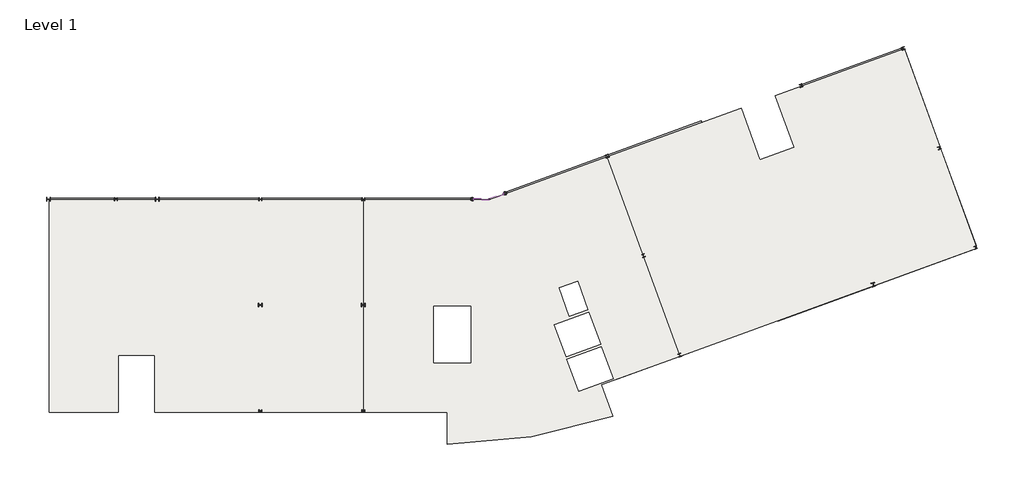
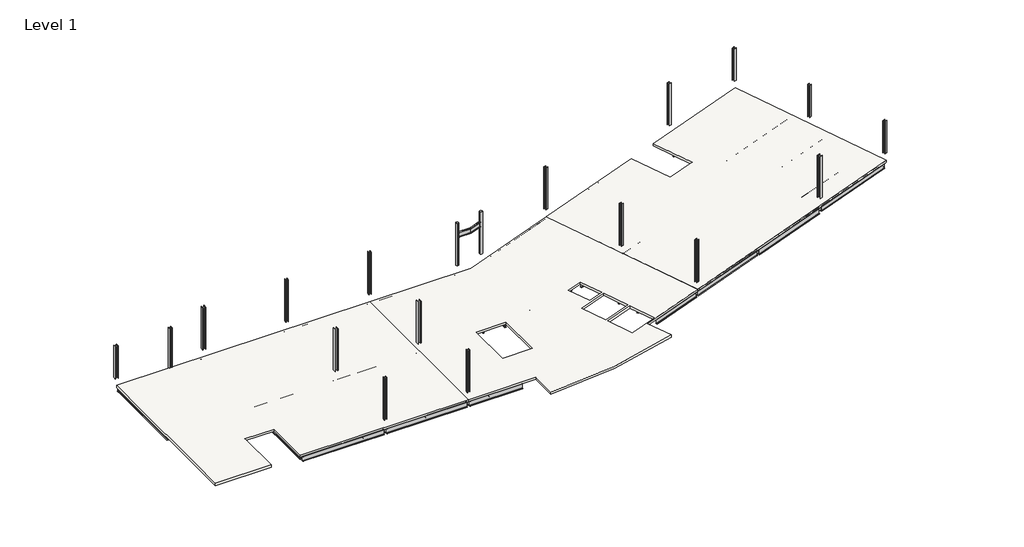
# One storey: 87 beams, 19 columns, 1 slab.
"""IFC4 building model written with IfcOpenShell, lengths in millimetres."""

from ifc_helpers import new_model, si_unit, point, frame, frame_2d, origin, place, context, project, spatial, polyline, circle_curve, trimmed, segment, composite_curve, outline, extrude, transform, mapped, element, save
from components import beam_e63ae445, ub_universal_beams_d270934e, ub_universal_beams_e915e172, ub_universal_beams_a95554c7, ub_universal_beams_b6dbdd7a, ub_universal_beams_9ada3ad7, ub_universal_beams_885cc86f, ub_universal_beams_c84566a2, ub_universal_beams_4841b023, ub_universal_beams_bb2d3bd6, ub_universal_beams_20791346, ub_universal_beams_18d3feb0, ub_universal_beams_59459dd6, ub_universal_beams_568b5c51, ub_universal_beams_e00400c9, ub_universal_beams_14baedf7, ub_universal_beams_54dd217e, ub_universal_beams_f823aa85, ub_universal_beams_cdbcbb51, ub_universal_beams_2db27d90, ub_universal_beams_feb0265b, ub_universal_beams_78ad538f, ub_universal_beams_801fcbf0, ub_universal_beams_c91190e6, ub_universal_beams_7192e0ee, ub_universal_beams_e0a47d06, ub_universal_beams_f5dc209c, ub_universal_beams_f862a4b8, ub_universal_beams_0fc11a2d, ub_universal_beams_656765b2, ub_universal_beams_21f5ef47, ub_universal_beams_7b4bcd9a, ub_universal_beams_8d1efc97, ub_universal_beams_2b7a043a, ub_universal_beams_8d2b0bf5, ub_universal_beams_37de3949, ub_universal_beams_43212cfb, ub_universal_beams_777f85ab, ub_universal_beams_8ec85ef7, ub_universal_beams_16a75a32, ub_universal_beams_b9a7bbe5, ub_universal_beams_60794b88, ub_universal_beams_0c249d50, column_fd5da61b, uc_universal_columns_column_9b15f2e4, uc_universal_columns_column_e63b660d, uc_universal_columns_column_cef70da3, uc_universal_columns_column_7956e9f7

model = new_model("IFC4")

# Units and contexts
model_context = context("Model", 3, world=origin())
ifc_project = project(units=[si_unit("LENGTHUNIT", "METRE", prefix="MILLI")], contexts=[model_context])

# Site, building, storey
site = spatial("IfcSite", under=ifc_project)
building = spatial("IfcBuilding", under=site)
storey = spatial("IfcBuildingStorey", under=building, Name="Level 1", Elevation=3695.0)

# Beams
placement = place(None, origin())
beam_shape = beam_e63ae445(model_context)
element("IfcBeam", 1, ObjectType="Cranked Beam B2 : Cranked Beam B1", at=placement, inside=storey, context=model_context, shape_type="MappedRepresentation", body=[
    mapped(beam_shape, transform((0.0, 0.0, 0.0), x_axis=(1.0, 0.0, 0.0), y_axis=(0.0, 1.0, 0.0), z_axis=(0.0, 0.0, 1.0))),
])
ub_universal_beams_shape = ub_universal_beams_d270934e(model_context)
element("IfcBeam", 2, ObjectType="UB-Universal Beams : UB 18\" x 6\" x 2 1/2\"", at=placement, inside=storey, context=model_context, shape_type="MappedRepresentation", body=[
    mapped(ub_universal_beams_shape, transform((4212.2000022, 15363.2000005, 3466.0), x_axis=(1.0, 0.0, 0.0), y_axis=(0.0, 1.0, 0.0), z_axis=(0.0, 0.0, 1.0))),
])
ub_universal_beams_2_shape = ub_universal_beams_e915e172(model_context)
element("IfcBeam", 3, ObjectType="UB-Universal Beams : UB 18\" x 6\" x 2 1/2\"", at=placement, inside=storey, context=model_context, shape_type="MappedRepresentation", body=[
    mapped(ub_universal_beams_2_shape, transform((11712.2000023, 15363.2000005, 3466.0), x_axis=(1.0, 0.0, 0.0), y_axis=(0.0, 1.0, 0.0), z_axis=(0.0, 0.0, 1.0))),
])
ub_universal_beams_3_shape = ub_universal_beams_a95554c7(model_context)
element("IfcBeam", 4, ObjectType="UB-Universal Beams : UB 18\" x 6\" x 2 1/2\"", at=placement, inside=storey, context=model_context, shape_type="MappedRepresentation", body=[
    mapped(ub_universal_beams_3_shape, transform((19012.2000023, 15363.2000005, 3466.0), x_axis=(1.0, 0.0, 0.0), y_axis=(0.0, 1.0, 0.0), z_axis=(0.0, 0.0, 1.0))),
])
element("IfcBeam", 5, ObjectType="UB-Universal Beams : UB 18\" x 6\" x 2 1/2\"", at=placement, inside=storey, context=model_context, shape_type="MappedRepresentation", body=[
    mapped(ub_universal_beams_3_shape, transform((19012.2000022, 363.2000005, 3466.0), x_axis=(1.0, 0.0, 0.0), y_axis=(0.0, 1.0, 0.0), z_axis=(0.0, 0.0, 1.0))),
])
ub_universal_beams_4_shape = ub_universal_beams_b6dbdd7a(model_context)
element("IfcBeam", 6, ObjectType="UB-Universal Beams : UB 18\" x 6\" x 2 1/2\"", at=placement, inside=storey, context=model_context, shape_type="MappedRepresentation", body=[
    mapped(ub_universal_beams_4_shape, transform((26512.2000022, 15363.2000005, 3466.0), x_axis=(1.0, 0.0, 0.0), y_axis=(0.0, 1.0, 0.0), z_axis=(0.0, 0.0, 1.0))),
])
ub_universal_beams_5_shape = ub_universal_beams_9ada3ad7(model_context)
element("IfcBeam", 7, ObjectType="UB-Universal Beams : UB 18\" x 6\" x 2 1/2\"", at=placement, inside=storey, context=model_context, shape_type="MappedRepresentation", body=[
    mapped(ub_universal_beams_5_shape, transform((11674.7000023, 7863.2000004, 3466.0), x_axis=(-1.0, 0.0, 0.0), y_axis=(0.0, -1.0, 0.0), z_axis=(0.0, 0.0, 1.0))),
])
ub_universal_beams_6_shape = ub_universal_beams_885cc86f(model_context)
element("IfcBeam", 8, ObjectType="UB-Universal Beams : UB 18\" x 6\" x 2 1/2\"", at=placement, inside=storey, context=model_context, shape_type="MappedRepresentation", body=[
    mapped(ub_universal_beams_6_shape, transform((11674.7000023, 363.2000005, 3466.0), x_axis=(-1.0, 0.0, 0.0), y_axis=(0.0, -1.0, 0.0), z_axis=(0.0, 0.0, 1.0))),
])
ub_universal_beams_7_shape = ub_universal_beams_c84566a2(model_context)
element("IfcBeam", 9, ObjectType="UB-Universal Beams : UB 18\" x 6\" x 2 1/2\"", at=placement, inside=storey, context=model_context, shape_type="MappedRepresentation", body=[
    mapped(ub_universal_beams_7_shape, transform((19012.2000023, 7863.2000004, 3466.0), x_axis=(1.0, 0.0, 0.0), y_axis=(0.0, 1.0, 0.0), z_axis=(0.0, 0.0, 1.0))),
])
ub_universal_beams_8_shape = ub_universal_beams_4841b023(model_context)
element("IfcBeam", 10, ObjectType="UB-Universal Beams : UB 18\" x 6\" x 2 1/2\"", at=placement, inside=storey, context=model_context, shape_type="MappedRepresentation", body=[
    mapped(ub_universal_beams_8_shape, transform((25112.2000025, 7863.2000004, 3466.0), x_axis=(1.0, 0.0, 0.0), y_axis=(0.0, 1.0, 0.0), z_axis=(0.0, 0.0, 1.0))),
])
ub_universal_beams_9_shape = ub_universal_beams_bb2d3bd6(model_context)
element("IfcBeam", 11, ObjectType="UB-Universal Beams : UB 18\" x 6\" x 2 1/2\"", at=placement, inside=storey, context=model_context, shape_type="MappedRepresentation", body=[
    mapped(ub_universal_beams_9_shape, transform((614.1000027, 11575.7000004, 3466.0), x_axis=(0.0, 1.0, 0.0), y_axis=(-1.0, 0.0, 0.0), z_axis=(0.0, 0.0, 1.0))),
])
ub_universal_beams_10_shape = ub_universal_beams_20791346(model_context)
element("IfcBeam", 12, ObjectType="UB-Universal Beams : UB 18\" x 6\" x 2 1/2\"", at=placement, inside=storey, context=model_context, shape_type="MappedRepresentation", body=[
    mapped(ub_universal_beams_10_shape, transform((25112.2000025, 363.2000005, 3466.0), x_axis=(1.0, 0.0, 0.0), y_axis=(0.0, 1.0, 0.0), z_axis=(0.0, 0.0, 1.0))),
])
ub_universal_beams_11_shape = ub_universal_beams_18d3feb0(model_context)
element("IfcBeam", 13, ObjectType="UB-Universal Beams : UB 18\" x 6\" x 2 1/2\"", at=placement, inside=storey, context=model_context, shape_type="MappedRepresentation", body=[
    mapped(ub_universal_beams_11_shape, transform((8062.2000022, 11613.2000005, 3466.0), x_axis=(0.0, 1.0, 0.0), y_axis=(-1.0, 0.0, 0.0), z_axis=(0.0, 0.0, 1.0))),
])
ub_universal_beams_12_shape = ub_universal_beams_59459dd6(model_context)
element("IfcBeam", 14, ObjectType="UB-Universal Beams : UB 18\" x 6\" x 2 1/2\"", at=placement, inside=storey, context=model_context, shape_type="MappedRepresentation", body=[
    mapped(ub_universal_beams_12_shape, transform((15362.2000023, 4113.2000005, 3466.0), x_axis=(0.0, 1.0, 0.0), y_axis=(-1.0, 0.0, 0.0), z_axis=(0.0, 0.0, 1.0))),
])
element("IfcBeam", 15, ObjectType="UB-Universal Beams : UB 18\" x 6\" x 2 1/2\"", at=placement, inside=storey, context=model_context, shape_type="MappedRepresentation", body=[
    mapped(ub_universal_beams_12_shape, transform((22662.2000022, 4113.2000005, 3466.0), x_axis=(0.0, 1.0, 0.0), y_axis=(-1.0, 0.0, 0.0), z_axis=(0.0, 0.0, 1.0))),
])
ub_universal_beams_13_shape = ub_universal_beams_568b5c51(model_context)
element("IfcBeam", 16, ObjectType="UB-Universal Beams : UB 18\" x 6\" x 2 1/2\"", at=placement, inside=storey, context=model_context, shape_type="MappedRepresentation", body=[
    mapped(ub_universal_beams_13_shape, transform((15362.2000023, 11613.2000005, 3466.0), x_axis=(0.0, 1.0, 0.0), y_axis=(-1.0, 0.0, 0.0), z_axis=(0.0, 0.0, 1.0))),
])
element("IfcBeam", 17, ObjectType="UB-Universal Beams : UB 18\" x 6\" x 2 1/2\"", at=placement, inside=storey, context=model_context, shape_type="MappedRepresentation", body=[
    mapped(ub_universal_beams_13_shape, transform((22662.2000022, 11613.2000005, 3466.0), x_axis=(0.0, 1.0, 0.0), y_axis=(-1.0, 0.0, 0.0), z_axis=(0.0, 0.0, 1.0))),
])
ub_universal_beams_14_shape = ub_universal_beams_e00400c9(model_context)
element("IfcBeam", 18, ObjectType="UB-Universal Beams : UB 18\" x 6\" x 2 1/2\"", at=placement, inside=storey, context=model_context, shape_type="MappedRepresentation", body=[
    mapped(ub_universal_beams_14_shape, transform((30362.2000022, 11613.2000005, 3466.0), x_axis=(0.0, 1.0, 0.0), y_axis=(-1.0, 0.0, 0.0), z_axis=(0.0, 0.0, 1.0))),
])
ub_universal_beams_15_shape = ub_universal_beams_14baedf7(model_context)
element("IfcBeam", 19, ObjectType="UB-Universal Beams : UB 12\" x 5\" x 1 1/2\"", at=placement, inside=storey, context=model_context, shape_type="MappedRepresentation", body=[
    mapped(ub_universal_beams_15_shape, transform((2457.6125027, 11575.7000004, 3542.8), x_axis=(0.0, 1.0, 0.0), y_axis=(-1.0, 0.0, 0.0), z_axis=(0.0, 0.0, 1.0))),
])
element("IfcBeam", 20, ObjectType="UB-Universal Beams : UB 12\" x 5\" x 1 1/2\"", at=placement, inside=storey, context=model_context, shape_type="MappedRepresentation", body=[
    mapped(ub_universal_beams_15_shape, transform((4301.1250026, 11575.7000004, 3542.8), x_axis=(0.0, 1.0, 0.0), y_axis=(-1.0, 0.0, 0.0), z_axis=(0.0, 0.0, 1.0))),
])
element("IfcBeam", 21, ObjectType="UB-Universal Beams : UB 12\" x 5\" x 1 1/2\"", at=placement, inside=storey, context=model_context, shape_type="MappedRepresentation", body=[
    mapped(ub_universal_beams_15_shape, transform((6144.6375025, 11575.7000005, 3542.8), x_axis=(0.0, 1.0, 0.0), y_axis=(-1.0, 0.0, 0.0), z_axis=(0.0, 0.0, 1.0))),
])
ub_universal_beams_16_shape = ub_universal_beams_54dd217e(model_context)
element("IfcBeam", 22, ObjectType="UB-Universal Beams : UB 12\" x 5\" x 1 1/2\"", at=placement, inside=storey, context=model_context, shape_type="MappedRepresentation", body=[
    mapped(ub_universal_beams_16_shape, transform((7988.1500025, 7863.2000005, 3542.8), x_axis=(0.0, 1.0, 0.0), y_axis=(-1.0, 0.0, 0.0), z_axis=(0.0, 0.0, 1.0))),
])
ub_universal_beams_17_shape = ub_universal_beams_f823aa85(model_context)
element("IfcBeam", 23, ObjectType="UB-Universal Beams : UB 12\" x 5\" x 1 1/2\"", at=placement, inside=storey, context=model_context, shape_type="MappedRepresentation", body=[
    mapped(ub_universal_beams_17_shape, transform((9831.6625024, 4113.2000005, 3542.8), x_axis=(0.0, 1.0, 0.0), y_axis=(-1.0, 0.0, 0.0), z_axis=(0.0, 0.0, 1.0))),
])
element("IfcBeam", 24, ObjectType="UB-Universal Beams : UB 12\" x 5\" x 1 1/2\"", at=placement, inside=storey, context=model_context, shape_type="MappedRepresentation", body=[
    mapped(ub_universal_beams_17_shape, transform((11675.1750024, 4113.2000005, 3542.8), x_axis=(0.0, 1.0, 0.0), y_axis=(-1.0, 0.0, 0.0), z_axis=(0.0, 0.0, 1.0))),
])
element("IfcBeam", 25, ObjectType="UB-Universal Beams : UB 12\" x 5\" x 1 1/2\"", at=placement, inside=storey, context=model_context, shape_type="MappedRepresentation", body=[
    mapped(ub_universal_beams_17_shape, transform((13518.6875023, 4113.2000005, 3542.8), x_axis=(0.0, 1.0, 0.0), y_axis=(-1.0, 0.0, 0.0), z_axis=(0.0, 0.0, 1.0))),
])
element("IfcBeam", 26, ObjectType="UB-Universal Beams : UB 12\" x 5\" x 1 1/2\"", at=placement, inside=storey, context=model_context, shape_type="MappedRepresentation", body=[
    mapped(ub_universal_beams_17_shape, transform((9887.2000022, 11613.2000005, 3542.8), x_axis=(0.0, 1.0, 0.0), y_axis=(-1.0, 0.0, 0.0), z_axis=(0.0, 0.0, 1.0))),
])
element("IfcBeam", 27, ObjectType="UB-Universal Beams : UB 12\" x 5\" x 1 1/2\"", at=placement, inside=storey, context=model_context, shape_type="MappedRepresentation", body=[
    mapped(ub_universal_beams_17_shape, transform((11712.2000022, 11613.2000005, 3542.8), x_axis=(0.0, 1.0, 0.0), y_axis=(-1.0, 0.0, 0.0), z_axis=(0.0, 0.0, 1.0))),
])
element("IfcBeam", 28, ObjectType="UB-Universal Beams : UB 12\" x 5\" x 1 1/2\"", at=placement, inside=storey, context=model_context, shape_type="MappedRepresentation", body=[
    mapped(ub_universal_beams_17_shape, transform((13537.2000023, 11613.2000005, 3542.8), x_axis=(0.0, 1.0, 0.0), y_axis=(-1.0, 0.0, 0.0), z_axis=(0.0, 0.0, 1.0))),
])
element("IfcBeam", 29, ObjectType="UB-Universal Beams : UB 12\" x 5\" x 1 1/2\"", at=placement, inside=storey, context=model_context, shape_type="MappedRepresentation", body=[
    mapped(ub_universal_beams_17_shape, transform((17187.2000023, 11613.2000005, 3542.8), x_axis=(0.0, 1.0, 0.0), y_axis=(-1.0, 0.0, 0.0), z_axis=(0.0, 0.0, 1.0))),
])
element("IfcBeam", 30, ObjectType="UB-Universal Beams : UB 12\" x 5\" x 1 1/2\"", at=placement, inside=storey, context=model_context, shape_type="MappedRepresentation", body=[
    mapped(ub_universal_beams_17_shape, transform((19012.2000023, 11613.2000005, 3542.8), x_axis=(0.0, 1.0, 0.0), y_axis=(-1.0, 0.0, 0.0), z_axis=(0.0, 0.0, 1.0))),
])
element("IfcBeam", 31, ObjectType="UB-Universal Beams : UB 12\" x 5\" x 1 1/2\"", at=placement, inside=storey, context=model_context, shape_type="MappedRepresentation", body=[
    mapped(ub_universal_beams_17_shape, transform((20837.2000022, 11613.2000005, 3542.8), x_axis=(0.0, 1.0, 0.0), y_axis=(-1.0, 0.0, 0.0), z_axis=(0.0, 0.0, 1.0))),
])
element("IfcBeam", 32, ObjectType="UB-Universal Beams : UB 12\" x 5\" x 1 1/2\"", at=placement, inside=storey, context=model_context, shape_type="MappedRepresentation", body=[
    mapped(ub_universal_beams_17_shape, transform((24587.2000022, 11613.2000005, 3542.8), x_axis=(0.0, 1.0, 0.0), y_axis=(-1.0, 0.0, 0.0), z_axis=(0.0, 0.0, 1.0))),
])
element("IfcBeam", 33, ObjectType="UB-Universal Beams : UB 12\" x 5\" x 1 1/2\"", at=placement, inside=storey, context=model_context, shape_type="MappedRepresentation", body=[
    mapped(ub_universal_beams_17_shape, transform((26512.2000022, 11613.2000005, 3542.8), x_axis=(0.0, 1.0, 0.0), y_axis=(-1.0, 0.0, 0.0), z_axis=(0.0, 0.0, 1.0))),
])
element("IfcBeam", 34, ObjectType="UB-Universal Beams : UB 12\" x 5\" x 1 1/2\"", at=placement, inside=storey, context=model_context, shape_type="MappedRepresentation", body=[
    mapped(ub_universal_beams_17_shape, transform((17187.2000022, 4113.2000005, 3542.8), x_axis=(0.0, 1.0, 0.0), y_axis=(-1.0, 0.0, 0.0), z_axis=(0.0, 0.0, 1.0))),
])
element("IfcBeam", 35, ObjectType="UB-Universal Beams : UB 12\" x 5\" x 1 1/2\"", at=placement, inside=storey, context=model_context, shape_type="MappedRepresentation", body=[
    mapped(ub_universal_beams_17_shape, transform((19012.2000022, 4113.2000005, 3542.8), x_axis=(0.0, 1.0, 0.0), y_axis=(-1.0, 0.0, 0.0), z_axis=(0.0, 0.0, 1.0))),
])
element("IfcBeam", 36, ObjectType="UB-Universal Beams : UB 12\" x 5\" x 1 1/2\"", at=placement, inside=storey, context=model_context, shape_type="MappedRepresentation", body=[
    mapped(ub_universal_beams_17_shape, transform((20837.2000022, 4113.2000005, 3542.8), x_axis=(0.0, 1.0, 0.0), y_axis=(-1.0, 0.0, 0.0), z_axis=(0.0, 0.0, 1.0))),
])
element("IfcBeam", 37, ObjectType="UB-Universal Beams : UB 12\" x 5\" x 1 1/2\"", at=placement, inside=storey, context=model_context, shape_type="MappedRepresentation", body=[
    mapped(ub_universal_beams_17_shape, transform((24587.2000022, 4113.2000004, 3542.8), x_axis=(0.0, 1.0, 0.0), y_axis=(-1.0, 0.0, 0.0), z_axis=(0.0, 0.0, 1.0))),
])
element("IfcBeam", 38, ObjectType="UB-Universal Beams : UB 12\" x 5\" x 1 1/2\"", at=placement, inside=storey, context=model_context, shape_type="MappedRepresentation", body=[
    mapped(ub_universal_beams_17_shape, transform((26512.2000022, 4113.2000004, 3542.8), x_axis=(0.0, 1.0, 0.0), y_axis=(-1.0, 0.0, 0.0), z_axis=(0.0, 0.0, 1.0))),
])
element("IfcBeam", 39, ObjectType="UB-Universal Beams : UB 12\" x 5\" x 1 1/2\"", at=placement, inside=storey, context=model_context, shape_type="MappedRepresentation", body=[
    mapped(ub_universal_beams_17_shape, transform((39409.0148654, 14226.6858637, 3542.8), x_axis=(0.34202014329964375, -0.9396926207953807, 0.0), y_axis=(0.9396926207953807, 0.34202014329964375, 0.0), z_axis=(0.0, 0.0, 1.0))),
])
element("IfcBeam", 40, ObjectType="UB-Universal Beams : UB 12\" x 5\" x 1 1/2\"", at=placement, inside=storey, context=model_context, shape_type="MappedRepresentation", body=[
    mapped(ub_universal_beams_17_shape, transform((37600.1065704, 13568.2970878, 3542.8), x_axis=(0.34202014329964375, -0.9396926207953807, 0.0), y_axis=(0.9396926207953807, 0.34202014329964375, 0.0), z_axis=(0.0, 0.0, 1.0))),
])
element("IfcBeam", 41, ObjectType="UB-Universal Beams : UB 12\" x 5\" x 1 1/2\"", at=placement, inside=storey, context=model_context, shape_type="MappedRepresentation", body=[
    mapped(ub_universal_beams_17_shape, transform((42915.2429568, 15502.8485233, 3542.8), x_axis=(-0.3420201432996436, 0.9396926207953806, 0.0), y_axis=(-0.9396926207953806, -0.3420201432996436, 0.0), z_axis=(0.0, 0.0, 1.0))),
])
element("IfcBeam", 42, ObjectType="UB-Universal Beams : UB 12\" x 5\" x 1 1/2\"", at=placement, inside=storey, context=model_context, shape_type="MappedRepresentation", body=[
    mapped(ub_universal_beams_17_shape, transform((44612.5627531, 16120.6224071, 3542.8), x_axis=(-0.34202014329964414, 0.9396926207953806, 0.0), y_axis=(-0.9396926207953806, -0.34202014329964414, 0.0), z_axis=(0.0, 0.0, 1.0))),
])
element("IfcBeam", 43, ObjectType="UB-Universal Beams : UB 12\" x 5\" x 1 1/2\"", at=placement, inside=storey, context=model_context, shape_type="MappedRepresentation", body=[
    mapped(ub_universal_beams_17_shape, transform((46309.8825494, 16738.396291, 3542.8), x_axis=(-0.34202014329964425, 0.9396926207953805, 0.0), y_axis=(-0.9396926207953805, -0.34202014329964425, 0.0), z_axis=(0.0, 0.0, 1.0))),
])
ub_universal_beams_18_shape = ub_universal_beams_cdbcbb51(model_context)
element("IfcBeam", 44, ObjectType="UB-Universal Beams : UB 12\" x 5\" x 1 1/2\"", at=placement, inside=storey, context=model_context, shape_type="MappedRepresentation", body=[
    mapped(ub_universal_beams_18_shape, transform((28437.2000022, 11613.2000005, 3542.8), x_axis=(0.0, 1.0, 0.0), y_axis=(-1.0, 0.0, 0.0), z_axis=(0.0, 0.0, 1.0))),
])
ub_universal_beams_19_shape = ub_universal_beams_2db27d90(model_context)
element("IfcBeam", 45, ObjectType="UB-Universal Beams : UB 18\" x 6\" x 2 1/2\"", at=placement, inside=storey, context=model_context, shape_type="MappedRepresentation", body=[
    mapped(ub_universal_beams_19_shape, transform((33982.2899804, 12251.5195361, 3466.0), x_axis=(0.3420201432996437, -0.9396926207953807, 0.0), y_axis=(0.9396926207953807, 0.3420201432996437, 0.0), z_axis=(0.0, 0.0, 1.0))),
])
ub_universal_beams_20_shape = ub_universal_beams_feb0265b(model_context)
element("IfcBeam", 46, ObjectType="UB-Universal Beams : UB 18\" x 6\" x 2 1/2\"", at=placement, inside=storey, context=model_context, shape_type="MappedRepresentation", body=[
    mapped(ub_universal_beams_20_shape, transform((32191.7898055, 11821.5156209, 3466.0), x_axis=(0.173648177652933, -0.9848077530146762, 0.0), y_axis=(0.9848077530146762, 0.173648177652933, 0.0), z_axis=(0.0, 0.0, 1.0))),
])
ub_universal_beams_21_shape = ub_universal_beams_78ad538f(model_context)
element("IfcBeam", 47, ObjectType="UB-Universal Beams : UB 18\" x 6\" x 2 1/2\"", at=placement, inside=storey, context=model_context, shape_type="MappedRepresentation", body=[
    mapped(ub_universal_beams_21_shape, transform((31317.5755278, 11361.2273115, 3466.0), x_axis=(1.0, 0.0, 0.0), y_axis=(0.0, 1.0, 0.0), z_axis=(0.0, 0.0, 1.0))),
])
ub_universal_beams_22_shape = ub_universal_beams_801fcbf0(model_context)
element("IfcBeam", 48, ObjectType="UB-Universal Beams : UB 18\" x 6\" x 2 1/2\"", at=placement, inside=storey, context=model_context, shape_type="MappedRepresentation", body=[
    mapped(ub_universal_beams_22_shape, transform((33170.7103845, 11687.9849855, 3466.0), x_axis=(0.9396926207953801, 0.3420201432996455, 0.0), y_axis=(-0.3420201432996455, 0.9396926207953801, 0.0), z_axis=(0.0, 0.0, 1.0))),
])
ub_universal_beams_23_shape = ub_universal_beams_c91190e6(model_context)
element("IfcBeam", 49, ObjectType="UB-Universal Beams : UB 18\" x 6\" x 2 1/2\"", at=placement, inside=storey, context=model_context, shape_type="MappedRepresentation", body=[
    mapped(ub_universal_beams_23_shape, transform((36317.5310328, 17092.1444158, 3466.0), x_axis=(0.9396926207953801, 0.3420201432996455, 0.0), y_axis=(-0.3420201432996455, 0.9396926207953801, 0.0), z_axis=(0.0, 0.0, 1.0))),
])
ub_universal_beams_24_shape = ub_universal_beams_7192e0ee(model_context)
element("IfcBeam", 50, ObjectType="UB-Universal Beams : UB 18\" x 6\" x 2 1/2\"", at=placement, inside=storey, context=model_context, shape_type="MappedRepresentation", body=[
    mapped(ub_universal_beams_24_shape, transform((43329.9872158, 19644.4697351, 3466.0), x_axis=(0.9396926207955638, 0.3420201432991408, 0.0), y_axis=(-0.3420201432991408, 0.9396926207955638, 0.0), z_axis=(0.0, 0.0, 1.0))),
])
element("IfcBeam", 51, ObjectType="UB-Universal Beams : UB 18\" x 6\" x 2 1/2\"", at=placement, inside=storey, context=model_context, shape_type="MappedRepresentation", body=[
    mapped(ub_universal_beams_24_shape, transform((45895.1382905, 12596.7750792, 3466.0), x_axis=(0.9396926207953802, 0.34202014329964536, 0.0), y_axis=(-0.34202014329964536, 0.9396926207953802, 0.0), z_axis=(0.0, 0.0, 1.0))),
])
element("IfcBeam", 52, ObjectType="UB-Universal Beams : UB 18\" x 6\" x 2 1/2\"", at=placement, inside=storey, context=model_context, shape_type="MappedRepresentation", body=[
    mapped(ub_universal_beams_24_shape, transform((48460.2893652, 5549.0804232, 3466.0), x_axis=(0.9396926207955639, 0.3420201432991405, 0.0), y_axis=(-0.3420201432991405, 0.9396926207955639, 0.0), z_axis=(0.0, 0.0, 1.0))),
])
ub_universal_beams_25_shape = ub_universal_beams_e0a47d06(model_context)
element("IfcBeam", 53, ObjectType="UB-Universal Beams : UB 18\" x 6\" x 2 1/2\"", at=placement, inside=storey, context=model_context, shape_type="MappedRepresentation", body=[
    mapped(ub_universal_beams_25_shape, transform((40198.2517768, 10523.2779603, 3466.0), x_axis=(0.9396926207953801, 0.34202014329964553, 0.0), y_axis=(-0.34202014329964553, 0.9396926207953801, 0.0), z_axis=(0.0, 0.0, 1.0))),
])
ub_universal_beams_26_shape = ub_universal_beams_f5dc209c(model_context)
element("IfcBeam", 54, ObjectType="UB-Universal Beams : UB 18\" x 6\" x 2 1/2\"", at=placement, inside=storey, context=model_context, shape_type="MappedRepresentation", body=[
    mapped(ub_universal_beams_26_shape, transform((41217.9231605, 14885.0746394, 3466.0), x_axis=(-0.3420201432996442, 0.9396926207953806, 0.0), y_axis=(-0.9396926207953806, -0.3420201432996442, 0.0), z_axis=(0.0, 0.0, 1.0))),
])
element("IfcBeam", 55, ObjectType="UB-Universal Beams : UB 18\" x 6\" x 2 1/2\"", at=placement, inside=storey, context=model_context, shape_type="MappedRepresentation", body=[
    mapped(ub_universal_beams_26_shape, transform((43783.0742352, 7837.3799835, 3466.0), x_axis=(-0.3420201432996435, 0.939692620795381, 0.0), y_axis=(-0.939692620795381, -0.3420201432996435, 0.0), z_axis=(0.0, 0.0, 1.0))),
])
ub_universal_beams_27_shape = ub_universal_beams_f862a4b8(model_context)
element("IfcBeam", 56, ObjectType="UB-Universal Beams : UB 18\" x 6\" x 2 1/2\"", at=placement, inside=storey, context=model_context, shape_type="MappedRepresentation", body=[
    mapped(ub_universal_beams_27_shape, transform((42763.4028515, 3475.5833044, 3466.0), x_axis=(-0.9396926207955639, -0.34202014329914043, 0.0), y_axis=(0.34202014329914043, -0.9396926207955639, 0.0), z_axis=(0.0, 0.0, 1.0))),
])
ub_universal_beams_28_shape = ub_universal_beams_0fc11a2d(model_context)
element("IfcBeam", 57, ObjectType="UB-Universal Beams : UB 20 1/2\" x 8 1/2\" x 3 1/2\"", at=placement, inside=storey, context=model_context, shape_type="MappedRepresentation", body=[
    mapped(ub_universal_beams_28_shape, transform((55320.045497, 8045.8274693, 3430.85), x_axis=(0.9396926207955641, 0.3420201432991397, 0.0), y_axis=(-0.3420201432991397, 0.9396926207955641, 0.0), z_axis=(0.0, 0.0, 1.0))),
])
ub_universal_beams_29_shape = ub_universal_beams_656765b2(model_context)
element("IfcBeam", 58, ObjectType="UB-Universal Beams : UB 18\" x 6\" x 2 1/2\"", at=placement, inside=storey, context=model_context, shape_type="MappedRepresentation", body=[
    mapped(ub_universal_beams_29_shape, transform((62402.9786263, 10623.8042994, 3466.0), x_axis=(0.9396926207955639, 0.34202014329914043, 0.0), y_axis=(-0.34202014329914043, 0.9396926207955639, 0.0), z_axis=(0.0, 0.0, 1.0))),
])
element("IfcBeam", 59, ObjectType="UB-Universal Beams : UB 18\" x 6\" x 2 1/2\"", at=placement, inside=storey, context=model_context, shape_type="MappedRepresentation", body=[
    mapped(ub_universal_beams_26_shape, transform((64738.219679, 15464.4291791, 3466.0), x_axis=(-0.34202014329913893, 0.9396926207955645, 0.0), y_axis=(-0.9396926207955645, -0.34202014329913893, 0.0), z_axis=(0.0, 0.0, 1.0))),
])
element("IfcBeam", 60, ObjectType="UB-Universal Beams : UB 18\" x 6\" x 2 1/2\"", at=placement, inside=storey, context=model_context, shape_type="MappedRepresentation", body=[
    mapped(ub_universal_beams_26_shape, transform((62173.0686043, 22512.123835, 3466.0), x_axis=(-0.3420201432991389, 0.9396926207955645, 0.0), y_axis=(-0.9396926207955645, -0.3420201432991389, 0.0), z_axis=(0.0, 0.0, 1.0))),
])
ub_universal_beams_30_shape = ub_universal_beams_21f5ef47(model_context)
element("IfcBeam", 61, ObjectType="UB-Universal Beams : UB 18\" x 6\" x 2 1/2\"", at=placement, inside=storey, context=model_context, shape_type="MappedRepresentation", body=[
    mapped(ub_universal_beams_30_shape, transform((57272.6764768, 24719.1936113, 3466.0), x_axis=(-0.9396926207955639, -0.3420201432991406, 0.0), y_axis=(0.3420201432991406, -0.9396926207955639, 0.0), z_axis=(0.0, 0.0, 1.0))),
])
ub_universal_beams_31_shape = ub_universal_beams_7b4bcd9a(model_context)
element("IfcBeam", 62, ObjectType="UB-Universal Beams : UB 18\" x 6\" x 2 1/2\"", at=placement, inside=storey, context=model_context, shape_type="MappedRepresentation", body=[
    mapped(ub_universal_beams_31_shape, transform((54937.4354241, 19878.5687316, 3466.0), x_axis=(-0.3420201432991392, 0.9396926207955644, 0.0), y_axis=(-0.9396926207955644, -0.3420201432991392, 0.0), z_axis=(0.0, 0.0, 1.0))),
])
ub_universal_beams_32_shape = ub_universal_beams_8d1efc97(model_context)
element("IfcBeam", 63, ObjectType="UB-Universal Beams : UB 12\" x 5\" x 1 1/2\"", at=placement, inside=storey, context=model_context, shape_type="MappedRepresentation", body=[
    mapped(ub_universal_beams_32_shape, transform((35791.1982754, 12909.908312, 3542.8), x_axis=(0.3420201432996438, -0.9396926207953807, 0.0), y_axis=(0.9396926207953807, 0.3420201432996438, 0.0), z_axis=(0.0, 0.0, 1.0))),
])
ub_universal_beams_33_shape = ub_universal_beams_2b7a043a(model_context)
element("IfcBeam", 64, ObjectType="UB-Universal Beams : UB 12\" x 5\" x 1 1/2\"", at=placement, inside=storey, context=model_context, shape_type="MappedRepresentation", body=[
    mapped(ub_universal_beams_33_shape, transform((42122.1150828, 5237.5069684, 3542.8), x_axis=(-0.939692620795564, -0.3420201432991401, 0.0), y_axis=(0.3420201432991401, -0.939692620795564, 0.0), z_axis=(0.0, 0.0, 1.0))),
])
element("IfcBeam", 65, ObjectType="UB-Universal Beams : UB 12\" x 5\" x 1 1/2\"", at=placement, inside=storey, context=model_context, shape_type="MappedRepresentation", body=[
    mapped(ub_universal_beams_33_shape, transform((41480.8273141, 6999.4306323, 3542.8), x_axis=(-0.9396926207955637, -0.3420201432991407, 0.0), y_axis=(0.3420201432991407, -0.9396926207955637, 0.0), z_axis=(0.0, 0.0, 1.0))),
])
element("IfcBeam", 66, ObjectType="UB-Universal Beams : UB 12\" x 5\" x 1 1/2\"", at=placement, inside=storey, context=model_context, shape_type="MappedRepresentation", body=[
    mapped(ub_universal_beams_33_shape, transform((40839.5395455, 8761.3542963, 3542.8), x_axis=(-0.939692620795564, -0.3420201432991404, 0.0), y_axis=(0.3420201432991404, -0.939692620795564, 0.0), z_axis=(0.0, 0.0, 1.0))),
])
ub_universal_beams_34_shape = ub_universal_beams_8d2b0bf5(model_context)
element("IfcBeam", 67, ObjectType="UB-Universal Beams : UB 12\" x 5\" x 1 1/2\"", at=placement, inside=storey, context=model_context, shape_type="MappedRepresentation", body=[
    mapped(ub_universal_beams_34_shape, transform((46536.4260592, 10834.8514152, 3542.8), x_axis=(0.9396926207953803, 0.342020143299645, 0.0), y_axis=(-0.342020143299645, 0.9396926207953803, 0.0), z_axis=(0.0, 0.0, 1.0))),
])
element("IfcBeam", 68, ObjectType="UB-Universal Beams : UB 12\" x 5\" x 1 1/2\"", at=placement, inside=storey, context=model_context, shape_type="MappedRepresentation", body=[
    mapped(ub_universal_beams_34_shape, transform((47177.7138279, 9072.9277512, 3542.8), x_axis=(0.9396926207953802, 0.34202014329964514, 0.0), y_axis=(-0.34202014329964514, 0.9396926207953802, 0.0), z_axis=(0.0, 0.0, 1.0))),
])
element("IfcBeam", 69, ObjectType="UB-Universal Beams : UB 12\" x 5\" x 1 1/2\"", at=placement, inside=storey, context=model_context, shape_type="MappedRepresentation", body=[
    mapped(ub_universal_beams_34_shape, transform((47819.0015966, 7311.0040872, 3542.8), x_axis=(0.9396926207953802, 0.3420201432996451, 0.0), y_axis=(-0.3420201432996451, 0.9396926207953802, 0.0), z_axis=(0.0, 0.0, 1.0))),
])
ub_universal_beams_35_shape = ub_universal_beams_37de3949(model_context)
element("IfcBeam", 70, ObjectType="UB-Universal Beams : UB 18\" x 6\" x 2 1/2\"", at=placement, inside=storey, context=model_context, shape_type="MappedRepresentation", body=[
    mapped(ub_universal_beams_35_shape, transform((59849.5737093, 17675.7742072, 3466.0), x_axis=(0.9396926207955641, 0.3420201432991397, 0.0), y_axis=(-0.3420201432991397, 0.9396926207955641, 0.0), z_axis=(0.0, 0.0, 1.0))),
])
ub_universal_beams_36_shape = ub_universal_beams_43212cfb(model_context)
element("IfcBeam", 71, ObjectType="UB-Universal Beams : UB 18\" x 6\" x 2 1/2\"", at=placement, inside=storey, context=model_context, shape_type="MappedRepresentation", body=[
    mapped(ub_universal_beams_36_shape, transform((57502.5864988, 12830.8740757, 3466.0), x_axis=(0.3420201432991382, -0.9396926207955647, 0.0), y_axis=(0.9396926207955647, 0.3420201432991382, 0.0), z_axis=(0.0, 0.0, 1.0))),
])
ub_universal_beams_37_shape = ub_universal_beams_777f85ab(model_context)
element("IfcBeam", 72, ObjectType="UB-Universal Beams : UB 12\" x 5\" x 1 1/2\"", at=placement, inside=storey, context=model_context, shape_type="MappedRepresentation", body=[
    mapped(ub_universal_beams_37_shape, transform((60479.1153202, 15909.5752914, 3542.8), x_axis=(0.9396926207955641, 0.34202014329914, 0.0), y_axis=(-0.34202014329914, 0.9396926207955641, 0.0), z_axis=(0.0, 0.0, 1.0))),
])
element("IfcBeam", 73, ObjectType="UB-Universal Beams : UB 12\" x 5\" x 1 1/2\"", at=placement, inside=storey, context=model_context, shape_type="MappedRepresentation", body=[
    mapped(ub_universal_beams_37_shape, transform((61120.4030889, 14147.6516274, 3542.8), x_axis=(0.9396926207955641, 0.34202014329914, 0.0), y_axis=(-0.34202014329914, 0.9396926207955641, 0.0), z_axis=(0.0, 0.0, 1.0))),
])
element("IfcBeam", 74, ObjectType="UB-Universal Beams : UB 12\" x 5\" x 1 1/2\"", at=placement, inside=storey, context=model_context, shape_type="MappedRepresentation", body=[
    mapped(ub_universal_beams_37_shape, transform((61761.6908576, 12385.7279634, 3542.8), x_axis=(0.9396926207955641, 0.3420201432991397, 0.0), y_axis=(-0.3420201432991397, 0.9396926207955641, 0.0), z_axis=(0.0, 0.0, 1.0))),
])
element("IfcBeam", 75, ObjectType="UB-Universal Beams : UB 12\" x 5\" x 1 1/2\"", at=placement, inside=storey, context=model_context, shape_type="MappedRepresentation", body=[
    mapped(ub_universal_beams_37_shape, transform((57913.9642455, 22957.2699473, 3542.8), x_axis=(0.9396926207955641, 0.3420201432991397, 0.0), y_axis=(-0.3420201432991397, 0.9396926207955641, 0.0), z_axis=(0.0, 0.0, 1.0))),
])
element("IfcBeam", 76, ObjectType="UB-Universal Beams : UB 12\" x 5\" x 1 1/2\"", at=placement, inside=storey, context=model_context, shape_type="MappedRepresentation", body=[
    mapped(ub_universal_beams_37_shape, transform((58555.2520142, 21195.3462833, 3542.8), x_axis=(0.9396926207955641, 0.3420201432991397, 0.0), y_axis=(-0.3420201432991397, 0.9396926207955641, 0.0), z_axis=(0.0, 0.0, 1.0))),
])
element("IfcBeam", 77, ObjectType="UB-Universal Beams : UB 12\" x 5\" x 1 1/2\"", at=placement, inside=storey, context=model_context, shape_type="MappedRepresentation", body=[
    mapped(ub_universal_beams_37_shape, transform((59196.5397829, 19433.4226193, 3542.8), x_axis=(0.9396926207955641, 0.3420201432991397, 0.0), y_axis=(-0.3420201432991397, 0.9396926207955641, 0.0), z_axis=(0.0, 0.0, 1.0))),
])
ub_universal_beams_38_shape = ub_universal_beams_8ec85ef7(model_context)
element("IfcBeam", 78, ObjectType="UB-Universal Beams : UB 20 1/2\" x 8 1/2\" x 3 1/2\"", at=placement, inside=storey, context=model_context, shape_type="MappedRepresentation", body=[
    mapped(ub_universal_beams_38_shape, transform((54042.3541451, 11665.8982726, 3430.85), x_axis=(-0.34202014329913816, 0.9396926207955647, 0.0), y_axis=(-0.9396926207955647, -0.34202014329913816, 0.0), z_axis=(0.0, 0.0, 1.0))),
])
ub_universal_beams_39_shape = ub_universal_beams_16a75a32(model_context)
element("IfcBeam", 79, ObjectType="UB-Universal Beams : UB 12\" x 5\" x 1 1/2\"", at=placement, inside=storey, context=model_context, shape_type="MappedRepresentation", body=[
    mapped(ub_universal_beams_39_shape, transform((52185.7228693, 11321.365084, 3542.8), x_axis=(0.9396926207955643, 0.3420201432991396, 0.0), y_axis=(-0.3420201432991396, 0.9396926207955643, 0.0), z_axis=(0.0, 0.0, 1.0))),
])
element("IfcBeam", 80, ObjectType="UB-Universal Beams : UB 12\" x 5\" x 1 1/2\"", at=placement, inside=storey, context=model_context, shape_type="MappedRepresentation", body=[
    mapped(ub_universal_beams_39_shape, transform((51681.2431579, 12707.4116997, 3542.8), x_axis=(0.9396926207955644, 0.34202014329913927, 0.0), y_axis=(-0.34202014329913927, 0.9396926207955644, 0.0), z_axis=(0.0, 0.0, 1.0))),
])
ub_universal_beams_40_shape = ub_universal_beams_b9a7bbe5(model_context)
element("IfcBeam", 81, ObjectType="UB-Universal Beams : UB 12\" x 5\" x 1 1/2\"", at=placement, inside=storey, context=model_context, shape_type="MappedRepresentation", body=[
    mapped(ub_universal_beams_40_shape, transform((55650.8394085, 12582.5643624, 3542.8), x_axis=(0.939692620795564, 0.34202014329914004, 0.0), y_axis=(-0.34202014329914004, 0.939692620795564, 0.0), z_axis=(0.0, 0.0, 1.0))),
])
element("IfcBeam", 82, ObjectType="UB-Universal Beams : UB 12\" x 5\" x 1 1/2\"", at=placement, inside=storey, context=model_context, shape_type="MappedRepresentation", body=[
    mapped(ub_universal_beams_40_shape, transform((56300.6776807, 10797.1483829, 3542.8), x_axis=(0.9396926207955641, 0.3420201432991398, 0.0), y_axis=(-0.3420201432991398, 0.9396926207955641, 0.0), z_axis=(0.0, 0.0, 1.0))),
])
element("IfcBeam", 83, ObjectType="UB-Universal Beams : UB 12\" x 5\" x 1 1/2\"", at=placement, inside=storey, context=model_context, shape_type="MappedRepresentation", body=[
    mapped(ub_universal_beams_40_shape, transform((55146.3596971, 13968.6109781, 3542.8), x_axis=(0.9396926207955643, 0.34202014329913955, 0.0), y_axis=(-0.34202014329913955, 0.9396926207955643, 0.0), z_axis=(0.0, 0.0, 1.0))),
])
ub_universal_beams_41_shape = ub_universal_beams_60794b88(model_context)
element("IfcBeam", 84, ObjectType="UB-Universal Beams : UB 12\" x 5\" x 1 1/2\"", at=placement, inside=storey, context=model_context, shape_type="MappedRepresentation", body=[
    mapped(ub_universal_beams_41_shape, transform((53431.3248942, 21325.7226526, 3542.8), x_axis=(-0.939692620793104, -0.34202014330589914, 0.0), y_axis=(0.34202014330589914, -0.939692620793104, 0.0), z_axis=(0.0, 0.0, 1.0))),
])
element("IfcBeam", 85, ObjectType="UB-Universal Beams : UB 12\" x 5\" x 1 1/2\"", at=placement, inside=storey, context=model_context, shape_type="MappedRepresentation", body=[
    mapped(ub_universal_beams_41_shape, transform((54072.6126629, 19563.7989886, 3542.8), x_axis=(-0.939692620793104, -0.3420201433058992, 0.0), y_axis=(0.3420201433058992, -0.939692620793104, 0.0), z_axis=(0.0, 0.0, 1.0))),
])
element("IfcBeam", 86, ObjectType="UB-Universal Beams : UB 12\" x 5\" x 1 1/2\"", at=placement, inside=storey, context=model_context, shape_type="MappedRepresentation", body=[
    mapped(ub_universal_beams_41_shape, transform((54713.9004316, 17801.8753247, 3542.8), x_axis=(-0.939692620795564, -0.34202014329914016, 0.0), y_axis=(0.34202014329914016, -0.939692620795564, 0.0), z_axis=(0.0, 0.0, 1.0))),
])
ub_universal_beams_42_shape = ub_universal_beams_0c249d50(model_context)
element("IfcBeam", 87, ObjectType="UB-Universal Beams : UB 12\" x 5\" x 1 1/2\"", at=placement, inside=storey, context=model_context, shape_type="MappedRepresentation", body=[
    mapped(ub_universal_beams_42_shape, transform((52835.5611416, 9535.9491045, 3542.8), x_axis=(-0.9396926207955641, -0.34202014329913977, 0.0), y_axis=(0.34202014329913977, -0.9396926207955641, 0.0), z_axis=(0.0, 0.0, 1.0))),
])

# Columns
column_shape = column_fd5da61b(model_context)
element("IfcColumn", 88, ObjectType="Circular Hollow Sections-Column : CHS 9 1/2\" x 1/4\"", at=placement, inside=storey, context=model_context, shape_type="MappedRepresentation", body=[
    mapped(column_shape, transform((30362.2000022, 15363.2000005, 0.0), x_axis=(0.0, 1.0, 0.0), y_axis=(-1.0, 0.0, 0.0), z_axis=(0.0, 0.0, 1.0))),
])
element("IfcColumn", 89, ObjectType="Circular Hollow Sections-Column : CHS 9 1/2\" x 1/4\"", at=placement, inside=storey, context=model_context, shape_type="MappedRepresentation", body=[
    mapped(column_shape, transform((32699.714443, 15775.3668642, 0.0), x_axis=(1.0, 0.0, 0.0), y_axis=(0.0, 1.0, 0.0), z_axis=(0.0, 0.0, 1.0))),
])
element("IfcColumn", 90, ObjectType="UC-Universal Columns-Column : UC 8\" x 8\" x 3\"", at=placement, inside=storey, context=model_context, shape_type="SweptSolid", body=[
    extrude(outline(composite_curve([segment(polyline([(5023.9666692, 15466.4000005), (5041.2666692, 15466.4000005), (5041.2666692, 15378.4000005)]), True, "CONTINUOUS"), segment(trimmed(circle_curve(frame_2d((5051.4666692, 15378.4000005)), 10.2), [point((5041.2666692, 15378.4000005))], [point((5051.4666692, 15368.2000005))], True, "CARTESIAN"), True, "CONTINUOUS"), segment(polyline([(5051.4666692, 15368.2000005), (5212.2666692, 15368.2000005)]), True, "CONTINUOUS"), segment(trimmed(circle_curve(frame_2d((5212.2666692, 15378.4000005)), 10.2), [point((5212.2666692, 15368.2000005))], [point((5222.4666692, 15378.4000005))], True, "CARTESIAN"), True, "CONTINUOUS"), segment(polyline([(5222.4666692, 15378.4000005), (5222.4666692, 15466.4000005), (5239.7666692, 15466.4000005), (5239.7666692, 15260.0000005), (5222.4666692, 15260.0000005), (5222.4666692, 15348.0000005)]), True, "CONTINUOUS"), segment(trimmed(circle_curve(frame_2d((5212.2666692, 15348.0000005)), 10.2), [point((5222.4666692, 15348.0000005))], [point((5212.2666692, 15358.2000005))], True, "CARTESIAN"), True, "CONTINUOUS"), segment(polyline([(5212.2666692, 15358.2000005), (5051.4666692, 15358.2000005)]), True, "CONTINUOUS"), segment(trimmed(circle_curve(frame_2d((5051.4666692, 15348.0000005)), 10.2), [point((5051.4666692, 15358.2000005))], [point((5041.2666692, 15348.0000005))], True, "CARTESIAN"), True, "CONTINUOUS"), segment(polyline([(5041.2666692, 15348.0000005), (5041.2666692, 15260.0000005), (5023.9666692, 15260.0000005), (5023.9666692, 15466.4000005)]), True, "CONTINUOUS")], self_intersect=False)), frame((0.0, 0.0, 3695.0), z_axis=(0.0, 0.0, 1.0), x_axis=(1.0, 0.0, 0.0)), (0.0, 0.0, 1.0), 3900.0),
])
uc_universal_columns_column_shape = uc_universal_columns_column_9b15f2e4(model_context)
element("IfcColumn", 91, ObjectType="UC-Universal Columns-Column : UC 10\" x 10\" x 5 1/2\"", at=placement, inside=storey, context=model_context, shape_type="MappedRepresentation", body=[
    mapped(uc_universal_columns_column_shape, transform((362.2000023, 15363.2000005, 0.0), x_axis=(0.0, 1.0, 0.0), y_axis=(-1.0, 0.0, 0.0), z_axis=(0.0, 0.0, 1.0))),
])
uc_universal_columns_column_2_shape = uc_universal_columns_column_e63b660d(model_context)
element("IfcColumn", 92, ObjectType="UC-Universal Columns-Column : UC 10\" x 10\" x 5 1/2\"", at=placement, inside=storey, context=model_context, shape_type="MappedRepresentation", body=[
    mapped(uc_universal_columns_column_2_shape, transform((15362.2000023, 7863.2000004, 0.0), x_axis=(0.0, 1.0, 0.0), y_axis=(-1.0, 0.0, 0.0), z_axis=(0.0, 0.0, 1.0))),
])
element("IfcColumn", 93, ObjectType="UC-Universal Columns-Column : UC 10\" x 10\" x 5 1/2\"", at=placement, inside=storey, context=model_context, shape_type="MappedRepresentation", body=[
    mapped(uc_universal_columns_column_2_shape, transform((22662.2000022, 7863.2000004, 0.0), x_axis=(0.0, 1.0, 0.0), y_axis=(-1.0, 0.0, 0.0), z_axis=(0.0, 0.0, 1.0))),
])
element("IfcColumn", 94, ObjectType="UC-Universal Columns-Column : UC 10\" x 10\" x 5 1/2\"", at=placement, inside=storey, context=model_context, shape_type="MappedRepresentation", body=[
    mapped(uc_universal_columns_column_2_shape, transform((8062.2000022, 15363.2000005, 0.0), x_axis=(0.0, 1.0, 0.0), y_axis=(-1.0, 0.0, 0.0), z_axis=(0.0, 0.0, 1.0))),
])
element("IfcColumn", 95, ObjectType="UC-Universal Columns-Column : UC 10\" x 10\" x 5 1/2\"", at=placement, inside=storey, context=model_context, shape_type="MappedRepresentation", body=[
    mapped(uc_universal_columns_column_2_shape, transform((58785.1620362, 9307.0267477, 0.0), x_axis=(0.9396926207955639, 0.3420201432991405, 0.0), y_axis=(-0.3420201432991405, 0.9396926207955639, 0.0), z_axis=(0.0, 0.0, 1.0))),
])
uc_universal_columns_column_3_shape = uc_universal_columns_column_cef70da3(model_context)
element("IfcColumn", 96, ObjectType="UC-Universal Columns-Column : UC 8\" x 8\" x 3\"", at=placement, inside=storey, context=model_context, shape_type="MappedRepresentation", body=[
    mapped(uc_universal_columns_column_3_shape, transform((22662.2000023, 15363.2000005, 0.0), x_axis=(0.0, 1.0, 0.0), y_axis=(-1.0, 0.0, 0.0), z_axis=(0.0, 0.0, 1.0))),
])
element("IfcColumn", 97, ObjectType="UC-Universal Columns-Column : UC 8\" x 8\" x 3\"", at=placement, inside=storey, context=model_context, shape_type="MappedRepresentation", body=[
    mapped(uc_universal_columns_column_3_shape, transform((15362.2000023, 15363.2000005, 0.0), x_axis=(0.0, 1.0, 0.0), y_axis=(-1.0, 0.0, 0.0), z_axis=(0.0, 0.0, 1.0))),
])
element("IfcColumn", 98, ObjectType="UC-Universal Columns-Column : UC 8\" x 8\" x 3\"", at=placement, inside=storey, context=model_context, shape_type="MappedRepresentation", body=[
    mapped(uc_universal_columns_column_3_shape, transform((15362.2000023, 363.2000005, 0.0), x_axis=(0.0, 1.0, 0.0), y_axis=(-1.0, 0.0, 0.0), z_axis=(0.0, 0.0, 1.0))),
])
element("IfcColumn", 99, ObjectType="UC-Universal Columns-Column : UC 8\" x 8\" x 3\"", at=placement, inside=storey, context=model_context, shape_type="MappedRepresentation", body=[
    mapped(uc_universal_columns_column_3_shape, transform((22662.2000022, 363.2000005, 0.0), x_axis=(0.0, 1.0, 0.0), y_axis=(-1.0, 0.0, 0.0), z_axis=(0.0, 0.0, 1.0))),
])
element("IfcColumn", 100, ObjectType="UC-Universal Columns-Column : UC 8\" x 8\" x 3\"", at=placement, inside=storey, context=model_context, shape_type="MappedRepresentation", body=[
    mapped(uc_universal_columns_column_3_shape, transform((42500.4986978, 11361.2273115, 0.0), x_axis=(0.9396926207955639, 0.3420201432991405, 0.0), y_axis=(-0.3420201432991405, 0.9396926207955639, 0.0), z_axis=(0.0, 0.0, 1.0))),
])
element("IfcColumn", 101, ObjectType="UC-Universal Columns-Column : UC 8\" x 8\" x 3\"", at=placement, inside=storey, context=model_context, shape_type="MappedRepresentation", body=[
    mapped(uc_universal_columns_column_3_shape, transform((39935.3476231, 18408.9219674, 0.0), x_axis=(0.9396926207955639, 0.3420201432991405, 0.0), y_axis=(-0.3420201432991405, 0.9396926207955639, 0.0), z_axis=(0.0, 0.0, 1.0))),
])
element("IfcColumn", 102, ObjectType="UC-Universal Columns-Column : UC 8\" x 8\" x 3\"", at=placement, inside=storey, context=model_context, shape_type="MappedRepresentation", body=[
    mapped(uc_universal_columns_column_3_shape, transform((53654.8598867, 23402.4160596, 0.0), x_axis=(0.9396926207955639, 0.3420201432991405, 0.0), y_axis=(-0.3420201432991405, 0.9396926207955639, 0.0), z_axis=(0.0, 0.0, 1.0))),
])
element("IfcColumn", 103, ObjectType="UC-Universal Columns-Column : UC 8\" x 8\" x 3\"", at=placement, inside=storey, context=model_context, shape_type="MappedRepresentation", body=[
    mapped(uc_universal_columns_column_3_shape, transform((45065.6497726, 4313.5326555, 0.0), x_axis=(0.939692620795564, 0.3420201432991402, 0.0), y_axis=(-0.3420201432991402, 0.939692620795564, 0.0), z_axis=(0.0, 0.0, 1.0))),
])
uc_universal_columns_column_4_shape = uc_universal_columns_column_7956e9f7(model_context)
element("IfcColumn", 104, ObjectType="UC-Universal Columns-Column : UC 8\" x 8\" x 3\"", at=placement, inside=storey, context=model_context, shape_type="MappedRepresentation", body=[
    mapped(uc_universal_columns_column_4_shape, transform((60890.4930669, 26035.971163, 0.0), x_axis=(0.9396926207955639, 0.3420201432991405, 0.0), y_axis=(-0.3420201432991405, 0.9396926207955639, 0.0), z_axis=(0.0, 0.0, 1.0))),
])
element("IfcColumn", 105, ObjectType="UC-Universal Columns-Column : UC 8\" x 8\" x 3\"", at=placement, inside=storey, context=model_context, shape_type="MappedRepresentation", body=[
    mapped(uc_universal_columns_column_4_shape, transform((63455.6441416, 18988.2765071, 0.0), x_axis=(0.9396926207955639, 0.3420201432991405, 0.0), y_axis=(-0.3420201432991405, 0.9396926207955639, 0.0), z_axis=(0.0, 0.0, 1.0))),
])
element("IfcColumn", 106, ObjectType="UC-Universal Columns-Column : UC 8\" x 8\" x 3\"", at=placement, inside=storey, context=model_context, shape_type="MappedRepresentation", body=[
    mapped(uc_universal_columns_column_4_shape, transform((66020.7952164, 11940.5818511, 0.0), x_axis=(0.9396926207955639, 0.3420201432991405, 0.0), y_axis=(-0.3420201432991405, 0.9396926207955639, 0.0), z_axis=(0.0, 0.0, 1.0))),
])

# Slab
element("IfcSlab", 107, ObjectType="RC COMP 7\"", at=placement, inside=storey, context=model_context, shape_type="SweptSolid", body=[
    extrude(outline(polyline([(39950.6701255, 18366.823738), (49412.7637168, 21810.7441587), (50743.9061145, 18153.4604787), (53177.7100023, 19039.2926498), (51846.5676046, 22696.5763298), (60969.2448211, 26016.9592931), (66109.9443828, 11893.0033256), (45091.3696873, 4242.8677705), (39950.6701255, 18366.823738)])), frame((0.0, 0.0, 3695.0), z_axis=(0.0, 0.0, 1.0), x_axis=(1.0, 0.0, 0.0)), (0.0, 0.0, 1.0), 200.0),
    extrude(outline(polyline([(22662.2000022, 288.0000005), (7887.2000023, 288.0000005), (7887.2000023, 4300.0), (5297.2000024, 4300.0), (5297.2000024, 288.0), (408.0, 288.0), (408.0000025, 15318.4000008), (22662.2000023, 15318.4000005), (22662.2000022, 288.0000005)])), frame((0.0, 0.0, 3695.0), z_axis=(0.0, 0.0, 1.0), x_axis=(1.0, 0.0, 0.0)), (0.0, 0.0, 1.0), 200.0),
    extrude(outline(composite_curve([segment(polyline([(39521.1756429, 2215.4829394), (40330.9765444, -9.4267517)]), True, "CONTINUOUS"), segment(trimmed(circle_curve(frame_2d((28027.924496, 36998.4991929)), 38999.3804108), [point((40330.9765444, -9.4267517))], [point((28589.8766928, -1996.8323502))], False, "CARTESIAN"), True, "CONTINUOUS"), segment(polyline([(28589.8766928, -1996.8323502), (28589.8766928, 288.0000005), (22662.2000022, 288.0000005), (22662.2000023, 15318.4000005), (31575.1947409, 15318.4000004), (39950.6701255, 18366.823738), (45091.3696873, 4242.8677705), (39521.1756429, 2215.4829394)]), True, "CONTINUOUS")], self_intersect=False), holes=[polyline([(30262.2000025, 3763.2000006), (30262.2000025, 7763.2000004), (27662.2000026, 7763.2000004), (27662.2000026, 3763.2000006), (30262.2000025, 3763.2000006)]), polyline([(37836.2376079, 9557.1573328), (36520.667939, 9078.3291322), (37254.4424652, 7062.3001903), (38570.0121342, 7541.1283909), (37836.2376079, 9557.1573328)]), polyline([(38637.9760474, 7354.3990738), (36194.7752334, 6465.1467012), (37016.0636927, 4208.6752042), (39459.2645067, 5097.9275768), (38637.9760474, 7354.3990738)]), polyline([(39527.6685354, 4909.9890526), (37084.4677213, 4020.73668), (37905.7561806, 1764.2651831), (40348.9569947, 2653.5175556), (39527.6685354, 4909.9890526)])]), frame((0.0, 0.0, 3695.0), z_axis=(0.0, 0.0, 1.0), x_axis=(1.0, 0.0, 0.0)), (0.0, 0.0, 1.0), 200.0),
])

save(model, "model.ifc")
